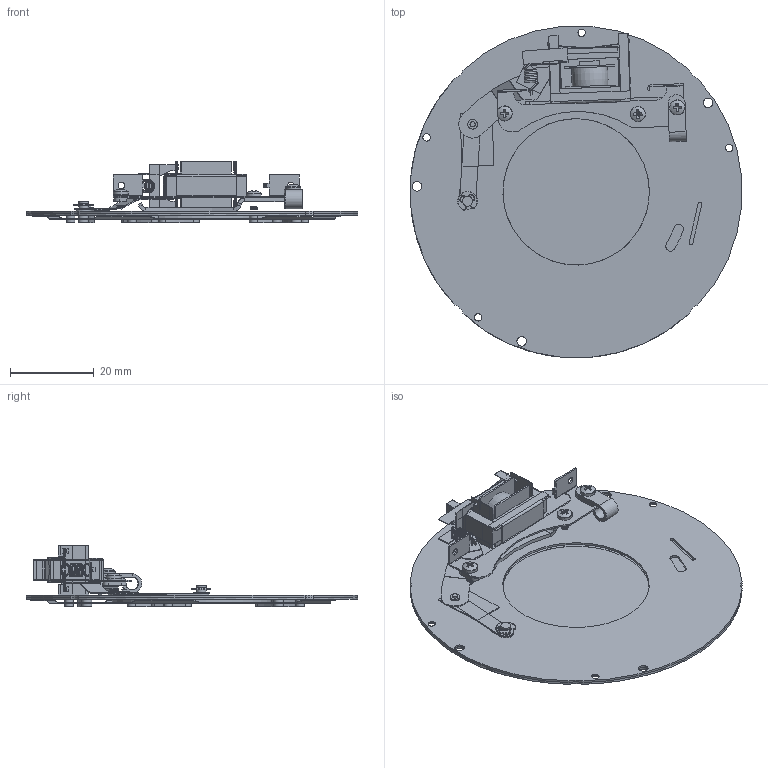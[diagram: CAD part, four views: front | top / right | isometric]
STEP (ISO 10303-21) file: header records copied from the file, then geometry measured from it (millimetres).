
FILE_DESCRIPTION (( 'STEP AP214' ), '1' );
FILE_NAME ('FS35uNHOUSED.STEP', '2019-10-02T13:52:35', ( '' ), ( '' ), 'SwSTEP 2.0', 'SolidWorks 2018', '' );
FILE_SCHEMA (( 'AUTOMOTIVE_DESIGN' ));
Length unit declared in the file: inch
Products named in the file (1): FS35uNHOUSED
Bounding box: 79.17 x 79.17 x 14.77 mm (x, y, z)
Surface area: 28157.1 mm2 (no closed solid volume)
Topology: 0 solids, 57 shells, 596 faces, 1841 edges, 1276 vertices
Faces by surface type: plane 355, cylinder 196, torus 20, cone 12, bspline 9, sphere 4
Full cylindrical faces by diameter (mm): 1.27 x1, 1.524 x2, 1.575 x2, 1.778 x4, 1.854 x4, 1.88 x1, 2.032 x8, 2.286 x6, 2.337 x1, 2.388 x2, 3.607 x3, 3.81 x1, 35 x3, 38.1 x1
Entity records: 29389 total; most frequent: CARTESIAN_POINT 5908, DIRECTION 3505, ORIENTED_EDGE 2762, EDGE_CURVE 1782, VERTEX_POINT 1275, AXIS2_PLACEMENT_3D 1215, LINE 1075, VECTOR 1075
